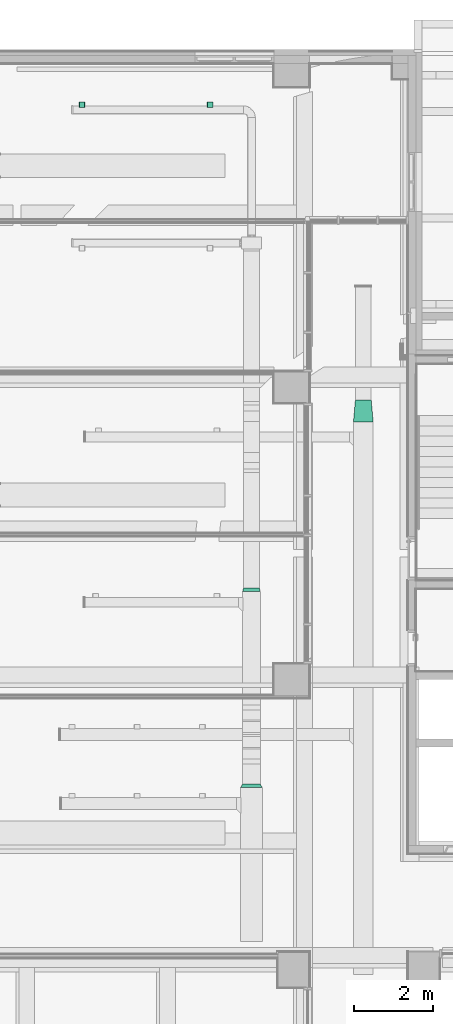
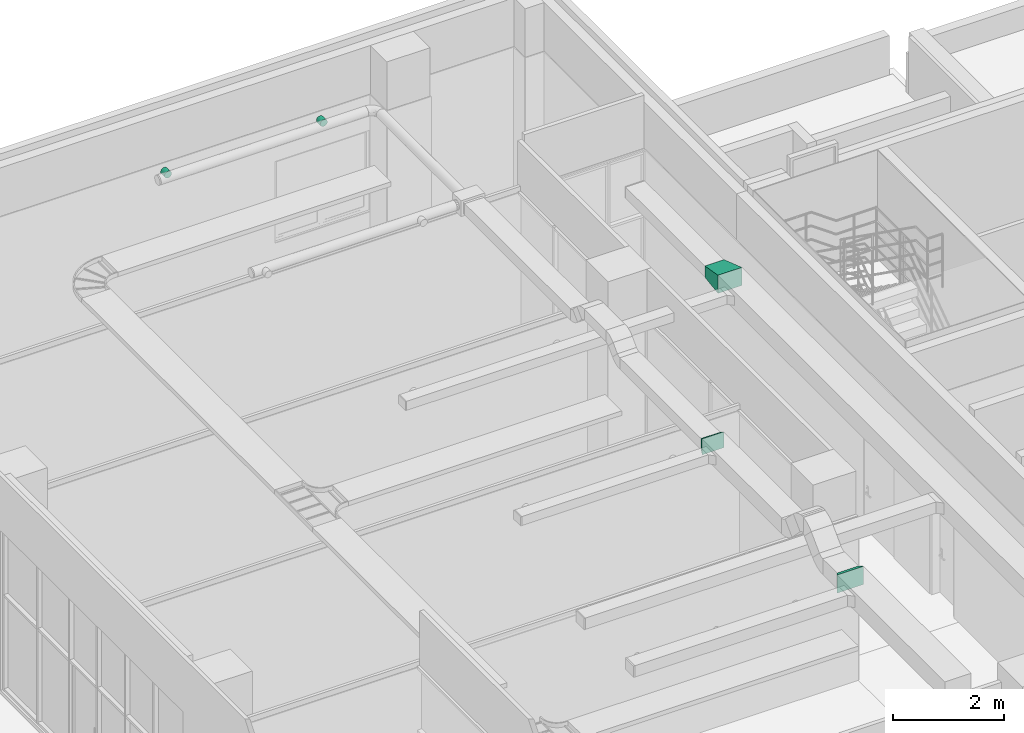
# One storey, part 92 of 100: 5 flow fittings.
"""IFC2X3 building model written with IfcOpenShell, lengths in millimetres."""

from ifc_helpers import new_model, entity, si_unit, converted_unit, derived_unit, direction, frame, origin, place, context, subcontext, project, spatial, faceted_brep, source, transform, mapped, material, type_object, type_shapes, element, save


model = new_model("IFC2X3")

# Units and contexts
model_context = context("Model", 3, precision=0.01, world=origin(), true_north=direction((6.123031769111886e-17, 1.0)))
body_context = subcontext(model_context, "Body", "Model", "MODEL_VIEW")
ifc_project = project(units=[si_unit("LENGTHUNIT", "METRE", prefix="MILLI"), si_unit("AREAUNIT", "SQUARE_METRE"), si_unit("VOLUMEUNIT", "CUBIC_METRE"), converted_unit("PLANEANGLEUNIT", "DEGREE", entity("IfcRatioMeasure", 0.017453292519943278), si_unit("PLANEANGLEUNIT", "RADIAN"), dimensions=[0, 0, 0, 0, 0, 0, 0]), si_unit("MASSUNIT", "GRAM", prefix="KILO"), derived_unit("MASSDENSITYUNIT", [(si_unit("MASSUNIT", "GRAM", prefix="KILO"), 1), (si_unit("LENGTHUNIT", "METRE"), -3)]), derived_unit("MOMENTOFINERTIAUNIT", [(si_unit("LENGTHUNIT", "METRE"), 4)]), si_unit("TIMEUNIT", "SECOND"), si_unit("FREQUENCYUNIT", "HERTZ"), si_unit("THERMODYNAMICTEMPERATUREUNIT", "DEGREE_CELSIUS"), derived_unit("THERMALTRANSMITTANCEUNIT", [(si_unit("MASSUNIT", "GRAM", prefix="KILO"), 1), (si_unit("THERMODYNAMICTEMPERATUREUNIT", "KELVIN"), -1), (si_unit("TIMEUNIT", "SECOND"), -3)]), derived_unit("VOLUMETRICFLOWRATEUNIT", [(si_unit("LENGTHUNIT", "METRE"), 3), (si_unit("TIMEUNIT", "SECOND"), -1)]), derived_unit("MASSFLOWRATEUNIT", [(si_unit("MASSUNIT", "GRAM", prefix="KILO"), 1), (si_unit("TIMEUNIT", "SECOND"), -1)]), derived_unit("ROTATIONALFREQUENCYUNIT", [(si_unit("TIMEUNIT", "SECOND"), -1)]), si_unit("ELECTRICCURRENTUNIT", "AMPERE"), si_unit("ELECTRICVOLTAGEUNIT", "VOLT"), si_unit("POWERUNIT", "WATT"), si_unit("FORCEUNIT", "NEWTON", prefix="KILO"), si_unit("ILLUMINANCEUNIT", "LUX"), si_unit("LUMINOUSFLUXUNIT", "LUMEN"), si_unit("LUMINOUSINTENSITYUNIT", "CANDELA"), derived_unit("USERDEFINED", [(si_unit("MASSUNIT", "GRAM", prefix="KILO"), -1), (si_unit("LENGTHUNIT", "METRE"), -2), (si_unit("TIMEUNIT", "SECOND"), 3), (si_unit("LUMINOUSFLUXUNIT", "LUMEN"), 1)]), derived_unit("SOUNDPOWERUNIT", [(si_unit("MASSUNIT", "GRAM", prefix="KILO"), 1), (si_unit("LENGTHUNIT", "METRE"), 2), (si_unit("TIMEUNIT", "SECOND"), -3)]), derived_unit("SOUNDPRESSUREUNIT", [(si_unit("MASSUNIT", "GRAM", prefix="KILO"), 1), (si_unit("LENGTHUNIT", "METRE"), -1), (si_unit("TIMEUNIT", "SECOND"), -2)]), derived_unit("LINEARVELOCITYUNIT", [(si_unit("LENGTHUNIT", "METRE"), 1), (si_unit("TIMEUNIT", "SECOND"), -1)]), si_unit("PRESSUREUNIT", "PASCAL"), derived_unit("USERDEFINED", [(si_unit("LENGTHUNIT", "METRE"), -2), (si_unit("MASSUNIT", "GRAM", prefix="KILO"), 1), (si_unit("TIMEUNIT", "SECOND"), -2)]), derived_unit("LINEARFORCEUNIT", [(si_unit("MASSUNIT", "GRAM", prefix="KILO"), 1), (si_unit("LENGTHUNIT", "METRE"), 1), (si_unit("TIMEUNIT", "SECOND"), -2), (si_unit("LENGTHUNIT", "METRE"), -1)]), derived_unit("PLANARFORCEUNIT", [(si_unit("MASSUNIT", "GRAM", prefix="KILO"), 1), (si_unit("LENGTHUNIT", "METRE"), 1), (si_unit("TIMEUNIT", "SECOND"), -2), (si_unit("LENGTHUNIT", "METRE"), -2)])], contexts=[model_context])

# Site, building, storey
site_placement = place(None, frame((-14167.972527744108, -657.2125860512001, 0.0)))
site = spatial("IfcSite", under=ifc_project, at=site_placement, Name="Default", CompositionType="ELEMENT")
building_placement = place(site_placement, origin())
building = spatial("IfcBuilding", under=site, at=building_placement, Name="Sample Building", CompositionType="ELEMENT")
storey_placement = place(building_placement, origin())
storey = spatial("IfcBuildingStorey", under=building, at=storey_placement, Name="지상 1층", CompositionType="ELEMENT", Elevation=0.0)

# Flow fittings
ifc_material = material(Name="<Unnamed>")
duct_fitting_type_1 = type_object("IfcDuctFittingType", Name="M_직사각형 변환 - 각도:RA", PredefinedType="NOTDEFINED", material=ifc_material)
shared_shape_1 = source(origin(), body_context, "Body", "Brep", [
    faceted_brep([(86.60254037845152, -200.0, 125.0), (86.60254037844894, -200.0, -125.0), (86.60254037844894, 200.0, -125.0), (86.60254037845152, 200.0, 125.0), (0.0, -225.0, 175.0), (0.0, 225.0, 175.0), (0.0, 225.0, -175.0), (0.0, -225.0, -175.0)], [[[0, 1, 2, 3]], [[4, 5, 6, 7]], [[4, 7, 1, 0]], [[7, 6, 2, 1]], [[6, 5, 3, 2]], [[5, 4, 0, 3]]]),
])
type_shapes(duct_fitting_type_1, [shared_shape_1])
flow_fitting_1_placement = place(storey_placement, frame((26099.510782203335, 22186.035067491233, 4180.0), z_axis=(0.0, 0.0, 1.0), x_axis=(0.0, 1.0, 0.0)))
element("IfcFlowFitting", 1, at=flow_fitting_1_placement, inside=storey, type_object=duct_fitting_type_1, material=ifc_material, Name="M_직사각형 변환 - 각도:RA", ObjectType="M_직사각형 변환 - 각도:RA", context=body_context, shape_type="MappedRepresentation", body=[
    mapped(shared_shape_1, transform((0.0, 0.0, 0.0), scale=1.0)),
])
duct_fitting_type_2 = type_object("IfcDuctFittingType", Name="M_직사각형 변환 - 각도:RA", PredefinedType="NOTDEFINED", material=ifc_material)
shared_shape_2 = source(origin(), body_context, "Body", "Brep", [
    faceted_brep([(86.60254037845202, -225.0, 175.0), (86.60254037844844, -225.0, -175.0), (86.60254037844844, 225.0, -175.0), (86.60254037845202, 225.0, 175.0), (0.0, -275.0, 200.0), (0.0, 275.0, 200.0), (0.0, 275.0, -200.0), (0.0, -275.0, -200.0)], [[[0, 1, 2, 3]], [[4, 5, 6, 7]], [[4, 7, 1, 0]], [[7, 6, 2, 1]], [[6, 5, 3, 2]], [[5, 4, 0, 3]]]),
])
type_shapes(duct_fitting_type_2, [shared_shape_2])
flow_fitting_2_placement = place(storey_placement, frame((26099.51078220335, 17224.10371473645, 4180.0), z_axis=(0.0, 0.0, 1.0), x_axis=(0.0, 1.0, 0.0)))
element("IfcFlowFitting", 2, at=flow_fitting_2_placement, inside=storey, type_object=duct_fitting_type_2, material=ifc_material, Name="M_직사각형 변환 - 각도:RA", ObjectType="M_직사각형 변환 - 각도:RA", context=body_context, shape_type="MappedRepresentation", body=[
    mapped(shared_shape_2, transform((0.0, 0.0, 0.0), scale=1.0)),
])
duct_fitting_type_3 = type_object("IfcDuctFittingType", Name="M_직사각형 변환 - 각도:SA", PredefinedType="NOTDEFINED", material=ifc_material)
shared_shape_3 = source(origin(), body_context, "Body", "Brep", [
    faceted_brep([(559.807621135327, -200.0, 50.0), (559.8076211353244, -200.0, -200.0), (559.8076211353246, 200.0, -200.0), (559.8076211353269, 200.0, 50.0), (0.0, -250.0, 200.0), (0.0, 250.0, 200.0), (0.0, 250.0, -200.0), (0.0, -250.0, -200.0)], [[[0, 1, 2, 3]], [[4, 5, 6, 7]], [[4, 7, 1, 0]], [[7, 6, 2, 1]], [[6, 5, 3, 2]], [[5, 4, 0, 3]]]),
])
type_shapes(duct_fitting_type_3, [shared_shape_3])
flow_fitting_3_placement = place(storey_placement, frame((28932.15081583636, 26478.92828630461, 4180.0), z_axis=(0.0, 0.0, 1.0), x_axis=(0.0, 1.0, 0.0)))
element("IfcFlowFitting", 3, at=flow_fitting_3_placement, inside=storey, type_object=duct_fitting_type_3, material=ifc_material, Name="M_직사각형 변환 - 각도:SA", ObjectType="M_직사각형 변환 - 각도:SA", context=body_context, shape_type="MappedRepresentation", body=[
    mapped(shared_shape_3, transform((0.0, 0.0, 0.0), scale=1.0)),
])
duct_fitting_type_4 = type_object("IfcDuctFittingType", Name="M_원형 견적:RA", PredefinedType="NOTDEFINED", material=ifc_material)
shared_shape_4 = source(origin(), body_context, "Body", "Brep", [
    faceted_brep([(101.6000000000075, 0.0, -75.0), (101.60000000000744, 19.41142838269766, -72.44443697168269), (101.6000000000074, 37.50000000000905, -64.95190528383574), (101.60000000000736, 53.033008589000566, -53.03300858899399), (101.60000000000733, 64.95190528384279, -37.500000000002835), (101.60000000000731, 72.4444369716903, -19.411428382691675), (101.60000000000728, 75.0, 0.0), (101.60000000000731, 72.4444369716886, 19.41142838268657), (101.60000000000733, 64.95190528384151, 37.49999999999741), (101.60000000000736, 53.03300858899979, 53.03300858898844), (101.6000000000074, 37.500000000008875, 64.95190528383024), (101.60000000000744, 19.4114283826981, 72.44443697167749), (101.6000000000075, 0.0, 75.0), (101.60000000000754, -19.411428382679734, 72.44443697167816), (101.6000000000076, -37.49999999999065, 64.95190528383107), (101.60000000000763, -53.033008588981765, 53.03300858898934), (101.60000000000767, -64.95190528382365, 37.49999999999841), (101.60000000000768, -72.44443697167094, 19.411428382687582), (101.6000000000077, -75.0, 0.0), (101.60000000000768, -72.44443697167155, -19.411428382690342), (101.60000000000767, -64.95190528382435, -37.500000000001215), (101.60000000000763, -53.03300858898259, -53.03300858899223), (101.6000000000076, -37.499999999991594, -64.95190528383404), (101.60000000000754, -19.411428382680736, -72.44443697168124), (0.0, 0.0, 75.0), (-39.95221722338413, 0.0, 75.0), (-39.95221722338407, -19.41142838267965, 72.44443697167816), (0.0, -19.411428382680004, 72.44443697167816), (-39.952217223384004, -37.499999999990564, 64.95190528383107), (0.0, -37.49999999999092, 64.95190528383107), (-39.952217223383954, -53.03300858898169, 53.03300858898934), (0.0, -53.03300858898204, 53.03300858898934), (0.0, -64.95190528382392, 37.49999999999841), (-39.95221722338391, -64.95190528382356, 37.49999999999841), (-39.95221722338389, -72.44443697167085, 19.411428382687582), (0.0, -72.44443697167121, 19.411428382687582), (-39.952217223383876, -75.0, 0.0), (0.0, -75.0, 0.0), (0.0, -64.95190528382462, -37.500000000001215), (0.0, -72.44443697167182, -19.411428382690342), (-39.95221722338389, -72.44443697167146, -19.411428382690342), (-39.95221722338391, -64.95190528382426, -37.500000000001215), (-39.952217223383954, -53.033008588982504, -53.03300858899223), (0.0, -53.03300858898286, -53.03300858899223), (0.0, -37.49999999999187, -64.95190528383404), (-39.952217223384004, -37.499999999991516, -64.95190528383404), (-39.95221722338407, -19.41142838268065, -72.44443697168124), (0.0, -19.411428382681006, -72.44443697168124), (-39.95221722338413, 0.0, -75.0), (0.0, 0.0, -75.0), (-39.9522172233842, 19.411428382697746, -72.44443697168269), (0.0, 19.41142838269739, -72.44443697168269), (-39.95221722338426, 37.50000000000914, -64.95190528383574), (0.0, 37.50000000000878, -64.95190528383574), (-39.95221722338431, 53.03300858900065, -53.03300858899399), (0.0, 53.033008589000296, -53.03300858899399), (0.0, 64.95190528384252, -37.500000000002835), (-39.95221722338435, 64.95190528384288, -37.500000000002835), (-39.95221722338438, 72.44443697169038, -19.411428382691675), (0.0, 72.44443697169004, -19.411428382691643), (-39.95221722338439, 75.0, 0.0), (0.0, 75.0, 0.0), (-39.95221722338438, 72.44443697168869, 19.41142838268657), (0.0, 72.44443697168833, 19.41142838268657), (-39.95221722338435, 64.95190528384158, 37.49999999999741), (0.0, 64.95190528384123, 37.49999999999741), (-39.95221722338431, 53.03300858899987, 53.03300858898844), (0.0, 53.033008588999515, 53.03300858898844), (0.0, 37.500000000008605, 64.95190528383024), (-39.95221722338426, 37.50000000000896, 64.95190528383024), (-39.9522172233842, 19.411428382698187, 72.44443697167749), (0.0, 19.41142838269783, 72.44443697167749)], [[[0, 1, 2, 3, 4, 5, 6, 7, 8, 9, 10, 11, 12, 13, 14, 15, 16, 17, 18, 19, 20, 21, 22, 23]], [[13, 12, 24, 25, 26, 27]], [[14, 13, 27, 26, 28, 29]], [[29, 28, 30, 31, 15, 14]], [[17, 16, 32, 33, 34, 35]], [[18, 17, 35, 34, 36, 37]], [[31, 30, 33, 32, 16, 15]], [[38, 20, 19, 39, 40, 41]], [[37, 36, 40, 39, 19, 18]], [[20, 38, 41, 42, 43, 21]], [[23, 22, 44, 45, 46, 47]], [[0, 23, 47, 46, 48, 49]], [[43, 42, 45, 44, 22, 21]], [[1, 0, 49, 48, 50, 51]], [[2, 1, 51, 50, 52, 53]], [[53, 52, 54, 55, 3, 2]], [[5, 4, 56, 57, 58, 59]], [[6, 5, 59, 58, 60, 61]], [[55, 54, 57, 56, 4, 3]], [[7, 6, 61, 60, 62, 63]], [[8, 7, 63, 62, 64, 65]], [[65, 64, 66, 67, 9, 8]], [[11, 10, 68, 69, 70, 71]], [[12, 11, 71, 70, 25, 24]], [[67, 66, 69, 68, 10, 9]], [[46, 45, 42, 41, 40, 36, 34, 33, 30, 28, 26, 25, 70, 69, 66, 64, 62, 60, 58, 57, 54, 52, 50, 48]]]),
])
type_shapes(duct_fitting_type_4, [shared_shape_4])
for number, where, z_axis, x_axis in (
    (4, (25055.729758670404, 34483.37129572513, 4180.0), (0.0, 0.0, -1.0), (0.0, 1.0, 0.0)),
    (5, (21805.7297586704, 34483.371295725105, 4180.0), (0.0, 0.0, -1.0), (0.0, 1.0, 0.0)),
):
    element("IfcFlowFitting", number, at=place(storey_placement, frame(where, z_axis=z_axis, x_axis=x_axis)), inside=storey, type_object=duct_fitting_type_4, material=ifc_material, Name="M_원형 견적:RA", ObjectType="M_원형 견적:RA", context=body_context, shape_type="MappedRepresentation", body=[
        mapped(shared_shape_4, transform((0.0, 0.0, 0.0), scale=1.0)),
    ])

save(model, "model.ifc")
